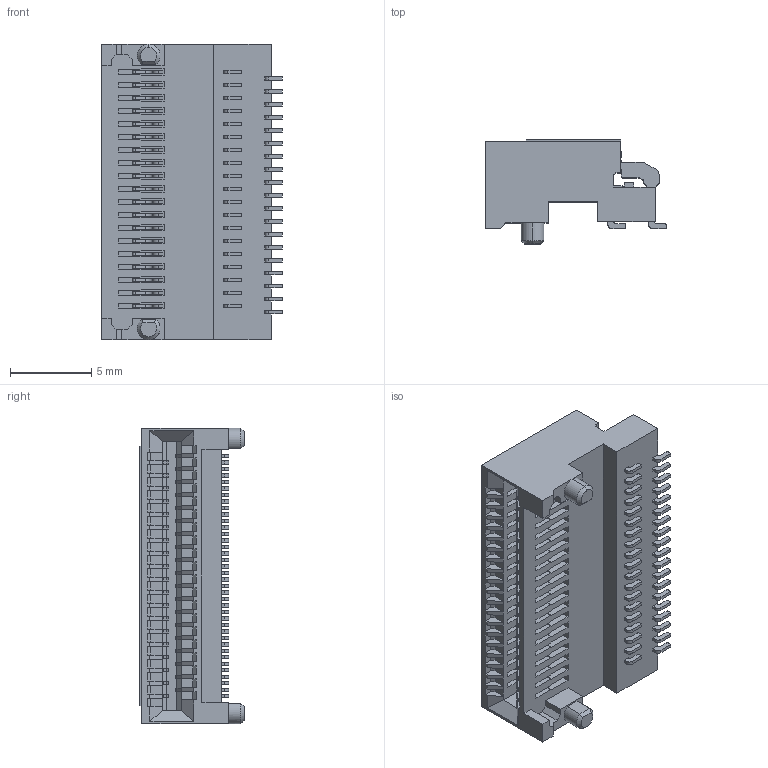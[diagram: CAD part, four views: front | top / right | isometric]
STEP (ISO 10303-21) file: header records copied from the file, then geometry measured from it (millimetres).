
FILE_DESCRIPTION (( 'STEP AP214' ), '1' );
FILE_NAME ('ESF190824-C_ QSFP+ 1x1 CONNECTOR （石头档）.STEP', '2022-07-08T06:46:50', ( '' ), ( '' ), 'SwSTEP 2.0', 'SolidWorks 2015', '' );
FILE_SCHEMA (( 'AUTOMOTIVE_DESIGN' ));
Length unit declared in the file: millimetre
Products named in the file (1): ESF190824-C_  QSFP+ 1x1 CONNECTOR （石头档）
Bounding box: 11.14 x 6.42 x 18.2 mm (x, y, z)
Volume: 527.5 mm3; surface area: 1411.6 mm2
Topology: 1 solids, 1 shells, 2241 faces, 6342 edges, 4184 vertices
Faces by surface type: plane 1566, cylinder 672, cone 3
Entity records: 72416 total; most frequent: CARTESIAN_POINT 12890, ORIENTED_EDGE 12678, DIRECTION 12090, EDGE_CURVE 6339, VECTOR 4988, LINE 4988, VERTEX_POINT 4183, AXIS2_PLACEMENT_3D 3551
